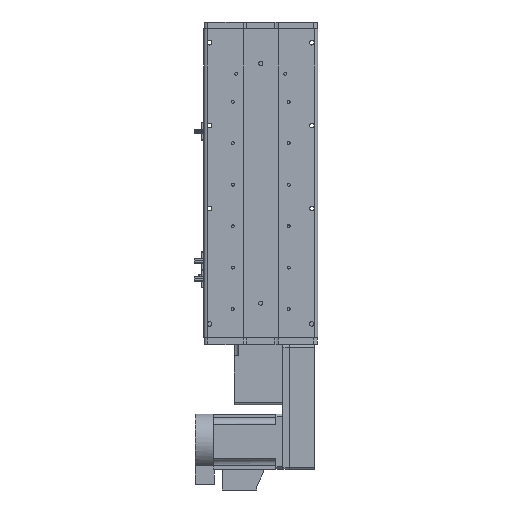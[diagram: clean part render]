
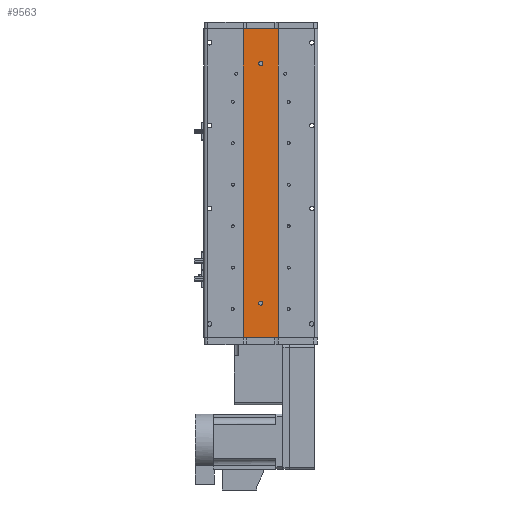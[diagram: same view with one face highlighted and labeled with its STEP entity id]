
A CAD part, front view. The second image highlights one B-rep face of the part: STEP entity #9563.
In plain terms, the highlighted planar face has unit normal (0, -1, 0).
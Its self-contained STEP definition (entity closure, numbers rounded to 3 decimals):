
#294 = DIRECTION ( 'NONE',  ( 0., 0., -1. ) ) ;
#417 = EDGE_CURVE ( 'NONE', #13611, #50567, #14575, .T. ) ;
#889 = CARTESIAN_POINT ( 'NONE',  ( -25., 1., 223.5 ) ) ;
#1305 = AXIS2_PLACEMENT_3D ( 'NONE', #39129, #11469, #43763 ) ;
#1567 = CARTESIAN_POINT ( 'NONE',  ( 25., 1., -223.5 ) ) ;
#2459 = FACE_BOUND ( 'NONE', #46295, .T. ) ;
#7129 = VERTEX_POINT ( 'NONE', #38203 ) ;
#7197 = VERTEX_POINT ( 'NONE', #29520 ) ;
#7914 = DIRECTION ( 'NONE',  ( 1., 0., 0. ) ) ;
#8237 = ORIENTED_EDGE ( 'NONE', *, *, #27253, .F. ) ;
#9563 = ADVANCED_FACE ( 'NONE', ( #37897, #2459, #17641 ), #41263, .F. ) ;
#9809 = EDGE_CURVE ( 'NONE', #7197, #35254, #15433, .T. ) ;
#10195 = DIRECTION ( 'NONE',  ( 0., 0., -1. ) ) ;
#11469 = DIRECTION ( 'NONE',  ( 0., 1., 0. ) ) ;
#12291 = DIRECTION ( 'NONE',  ( 0., 1., 0. ) ) ;
#12677 = DIRECTION ( 'NONE',  ( 0., 1., 0. ) ) ;
#12840 = EDGE_CURVE ( 'NONE', #7129, #23592, #36350, .T. ) ;
#13356 = LINE ( 'NONE', #55642, #22754 ) ;
#13611 = VERTEX_POINT ( 'NONE', #26034 ) ;
#13613 = DIRECTION ( 'NONE',  ( 0., 1., 0. ) ) ;
#14575 = LINE ( 'NONE', #889, #37726 ) ;
#15433 = CIRCLE ( 'NONE', #56660, 3. ) ;
#17641 = FACE_OUTER_BOUND ( 'NONE', #51782, .T. ) ;
#17981 = CARTESIAN_POINT ( 'NONE',  ( 25., 1., -223.5 ) ) ;
#19824 = CARTESIAN_POINT ( 'NONE',  ( 0., 1., -173.5 ) ) ;
#20433 = ORIENTED_EDGE ( 'NONE', *, *, #417, .T. ) ;
#21653 = CARTESIAN_POINT ( 'NONE',  ( 25., 1., 223.5 ) ) ;
#22462 = EDGE_CURVE ( 'NONE', #55429, #32424, #13356, .T. ) ;
#22692 = CARTESIAN_POINT ( 'NONE',  ( 25., 1., 223.5 ) ) ;
#22754 = VECTOR ( 'NONE', #294, 1000. ) ;
#23592 = VERTEX_POINT ( 'NONE', #27468 ) ;
#23770 = LINE ( 'NONE', #1567, #34639 ) ;
#23899 = EDGE_CURVE ( 'NONE', #23592, #7129, #55131, .T. ) ;
#24523 = DIRECTION ( 'NONE',  ( 0., 0., 1. ) ) ;
#26034 = CARTESIAN_POINT ( 'NONE',  ( -25., 1., 223.5 ) ) ;
#27253 = EDGE_CURVE ( 'NONE', #13611, #55429, #40963, .T. ) ;
#27468 = CARTESIAN_POINT ( 'NONE',  ( 0., 1., 176.5 ) ) ;
#29296 = DIRECTION ( 'NONE',  ( 1., 0., 0. ) ) ;
#29520 = CARTESIAN_POINT ( 'NONE',  ( 0., 1., -170.5 ) ) ;
#29542 = CARTESIAN_POINT ( 'NONE',  ( 25., 1., 223.5 ) ) ;
#32424 = VERTEX_POINT ( 'NONE', #17981 ) ;
#34528 = CARTESIAN_POINT ( 'NONE',  ( 0., 1., -176.5 ) ) ;
#34639 = VECTOR ( 'NONE', #29296, 1000. ) ;
#35254 = VERTEX_POINT ( 'NONE', #34528 ) ;
#35263 = AXIS2_PLACEMENT_3D ( 'NONE', #39947, #12291, #44606 ) ;
#36350 = CIRCLE ( 'NONE', #44520, 3. ) ;
#37726 = VECTOR ( 'NONE', #10195, 1000. ) ;
#37897 = FACE_BOUND ( 'NONE', #50440, .T. ) ;
#38203 = CARTESIAN_POINT ( 'NONE',  ( 0., 1., 170.5 ) ) ;
#39129 = CARTESIAN_POINT ( 'NONE',  ( 0., 1., 173.5 ) ) ;
#39194 = EDGE_CURVE ( 'NONE', #35254, #7197, #53646, .T. ) ;
#39470 = CARTESIAN_POINT ( 'NONE',  ( -25., 1., -223.5 ) ) ;
#39554 = VECTOR ( 'NONE', #7914, 1000. ) ;
#39947 = CARTESIAN_POINT ( 'NONE',  ( 0., 1., -173.5 ) ) ;
#40332 = CARTESIAN_POINT ( 'NONE',  ( 0., 1., 173.5 ) ) ;
#40963 = LINE ( 'NONE', #21653, #39554 ) ;
#41263 = PLANE ( 'NONE',  #57819 ) ;
#43763 = DIRECTION ( 'NONE',  ( 0., 0., 1. ) ) ;
#44520 = AXIS2_PLACEMENT_3D ( 'NONE', #40332, #12677, #44979 ) ;
#44606 = DIRECTION ( 'NONE',  ( 0., 0., 1. ) ) ;
#44979 = DIRECTION ( 'NONE',  ( 0., 0., 1. ) ) ;
#45931 = DIRECTION ( 'NONE',  ( 0., 0., 1. ) ) ;
#45962 = ORIENTED_EDGE ( 'NONE', *, *, #23899, .T. ) ;
#46295 = EDGE_LOOP ( 'NONE', ( #59032, #45962 ) ) ;
#49446 = ORIENTED_EDGE ( 'NONE', *, *, #22462, .F. ) ;
#50440 = EDGE_LOOP ( 'NONE', ( #58714, #53294 ) ) ;
#50567 = VERTEX_POINT ( 'NONE', #39470 ) ;
#51782 = EDGE_LOOP ( 'NONE', ( #57407, #49446, #8237, #20433 ) ) ;
#52161 = DIRECTION ( 'NONE',  ( 0., 1., 0. ) ) ;
#52776 = EDGE_CURVE ( 'NONE', #50567, #32424, #23770, .T. ) ;
#53294 = ORIENTED_EDGE ( 'NONE', *, *, #9809, .T. ) ;
#53646 = CIRCLE ( 'NONE', #35263, 3. ) ;
#55131 = CIRCLE ( 'NONE', #1305, 3. ) ;
#55429 = VERTEX_POINT ( 'NONE', #29542 ) ;
#55642 = CARTESIAN_POINT ( 'NONE',  ( 25., 1., 223.5 ) ) ;
#56660 = AXIS2_PLACEMENT_3D ( 'NONE', #19824, #52161, #24523 ) ;
#57407 = ORIENTED_EDGE ( 'NONE', *, *, #52776, .T. ) ;
#57819 = AXIS2_PLACEMENT_3D ( 'NONE', #22692, #13613, #45931 ) ;
#58714 = ORIENTED_EDGE ( 'NONE', *, *, #39194, .T. ) ;
#59032 = ORIENTED_EDGE ( 'NONE', *, *, #12840, .T. ) ;
